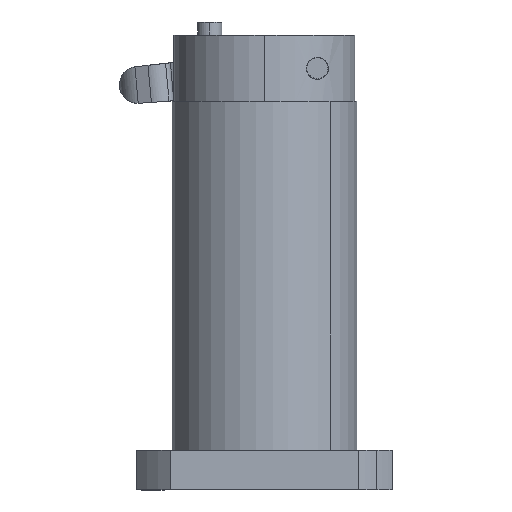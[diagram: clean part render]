
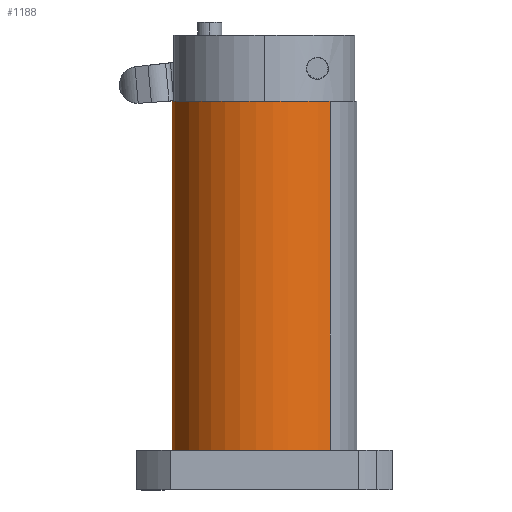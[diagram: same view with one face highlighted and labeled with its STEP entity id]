
A CAD part, left-side view. The second image highlights one B-rep face of the part: STEP entity #1188.
In plain terms, the highlighted cylindrical face has radius 21 mm (diameter 42 mm), a partial arc.
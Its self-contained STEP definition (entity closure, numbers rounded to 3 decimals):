
#238 = CYLINDRICAL_SURFACE ( 'NONE', #2960, 21. ) ;
#419 = DIRECTION ( 'NONE',  ( 0., 0., -1. ) ) ;
#528 = ORIENTED_EDGE ( 'NONE', *, *, #1569, .F. ) ;
#626 = VERTEX_POINT ( 'NONE', #8036 ) ;
#913 = DIRECTION ( 'NONE',  ( -0.707, -0.707, 0. ) ) ;
#1188 = ADVANCED_FACE ( 'NONE', ( #4524 ), #238, .T. ) ;
#1430 = CIRCLE ( 'NONE', #6714, 21. ) ;
#1569 = EDGE_CURVE ( 'NONE', #5747, #8205, #1885, .T. ) ;
#1833 = CARTESIAN_POINT ( 'NONE',  ( -15.859, -7.863, 106.323 ) ) ;
#1885 = LINE ( 'NONE', #1833, #9137 ) ;
#1942 = AXIS2_PLACEMENT_3D ( 'NONE', #5896, #5235, #913 ) ;
#2339 = CARTESIAN_POINT ( 'NONE',  ( -15.859, -7.863, 145.823 ) ) ;
#2544 = DIRECTION ( 'NONE',  ( 0., 0., -1. ) ) ;
#2960 = AXIS2_PLACEMENT_3D ( 'NONE', #7546, #419, #9071 ) ;
#4006 = CARTESIAN_POINT ( 'NONE',  ( -15.859, -7.863, 66.823 ) ) ;
#4010 = CARTESIAN_POINT ( 'NONE',  ( -1.01, 6.986, 145.823 ) ) ;
#4475 = EDGE_LOOP ( 'NONE', ( #6237, #7248, #5185, #528 ) ) ;
#4524 = FACE_OUTER_BOUND ( 'NONE', #4475, .T. ) ;
#4670 = CARTESIAN_POINT ( 'NONE',  ( 13.839, 21.835, 106.323 ) ) ;
#4858 = DIRECTION ( 'NONE',  ( 0., 0., -1. ) ) ;
#5185 = ORIENTED_EDGE ( 'NONE', *, *, #8387, .F. ) ;
#5235 = DIRECTION ( 'NONE',  ( 0., 0., -1. ) ) ;
#5603 = EDGE_CURVE ( 'NONE', #5747, #626, #1430, .T. ) ;
#5747 = VERTEX_POINT ( 'NONE', #2339 ) ;
#5896 = CARTESIAN_POINT ( 'NONE',  ( -1.01, 6.986, 66.823 ) ) ;
#6237 = ORIENTED_EDGE ( 'NONE', *, *, #5603, .T. ) ;
#6572 = EDGE_CURVE ( 'NONE', #626, #6610, #6832, .T. ) ;
#6610 = VERTEX_POINT ( 'NONE', #9344 ) ;
#6714 = AXIS2_PLACEMENT_3D ( 'NONE', #4010, #2544, #8315 ) ;
#6832 = LINE ( 'NONE', #4670, #9019 ) ;
#7248 = ORIENTED_EDGE ( 'NONE', *, *, #6572, .T. ) ;
#7546 = CARTESIAN_POINT ( 'NONE',  ( -1.01, 6.986, 106.323 ) ) ;
#7663 = DIRECTION ( 'NONE',  ( 0., 0., -1. ) ) ;
#8036 = CARTESIAN_POINT ( 'NONE',  ( 13.839, 21.835, 145.823 ) ) ;
#8205 = VERTEX_POINT ( 'NONE', #4006 ) ;
#8315 = DIRECTION ( 'NONE',  ( -0.707, -0.707, 0. ) ) ;
#8387 = EDGE_CURVE ( 'NONE', #8205, #6610, #9060, .T. ) ;
#9019 = VECTOR ( 'NONE', #4858, 1000. ) ;
#9060 = CIRCLE ( 'NONE', #1942, 21. ) ;
#9071 = DIRECTION ( 'NONE',  ( -0.707, -0.707, 0. ) ) ;
#9137 = VECTOR ( 'NONE', #7663, 1000. ) ;
#9344 = CARTESIAN_POINT ( 'NONE',  ( 13.839, 21.835, 66.823 ) ) ;
